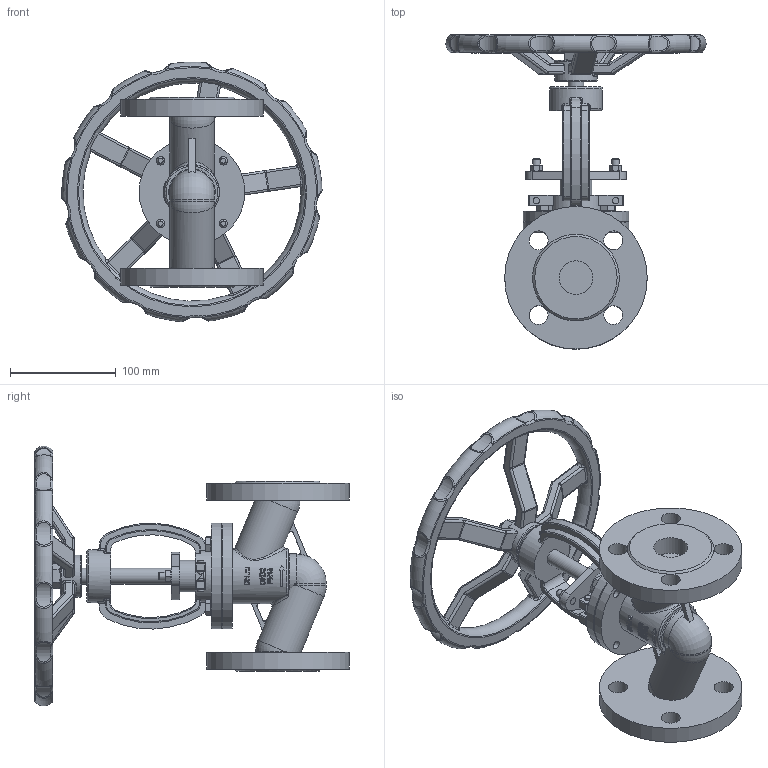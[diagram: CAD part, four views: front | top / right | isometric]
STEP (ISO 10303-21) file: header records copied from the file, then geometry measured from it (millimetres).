
FILE_DESCRIPTION(('STEP AP203'), '1');
FILE_NAME('VSO3131M-F-S 孰囡囗 玎镱痦 DN.ru 捏32 畜16', '2026-04-15T20:25:12', ('R2D2'), (''), 'C3D Converter', 'C3D Toolkit', '');
FILE_SCHEMA(('CONFIG_CONTROL_DESIGN'));
Length unit declared in the file: millimetre
Products named in the file (1): VSO3131M-F-S
Bounding box: 246.24 x 297.5 x 245.92 mm (x, y, z)
Volume: 1368301.3 mm3; surface area: 236396.2 mm2
Topology: 1 solids, 1 shells, 1028 faces, 2486 edges, 1485 vertices
Faces by surface type: plane 303, cylinder 239, torus 145, extrusion 125, bspline 73, sphere 72, cone 71
Full cylindrical faces by diameter (mm): 6 x8, 7 x4, 8 x6, 13 x4, 15 x3, 18 x9, 30 x1, 32 x2, 40 x1, 42 x3, 50 x2, 52 x1, 100 x2, 135 x2
Entity records: 65289 total; most frequent: CARTESIAN_POINT 34645, ORIENTED_EDGE 4744, DIRECTION 4318, EDGE_CURVE 2372, AXIS2_PLACEMENT_3D 1710, VERTEX_POINT 1469, EDGE_LOOP 1185, FACE_BOUND 1089
